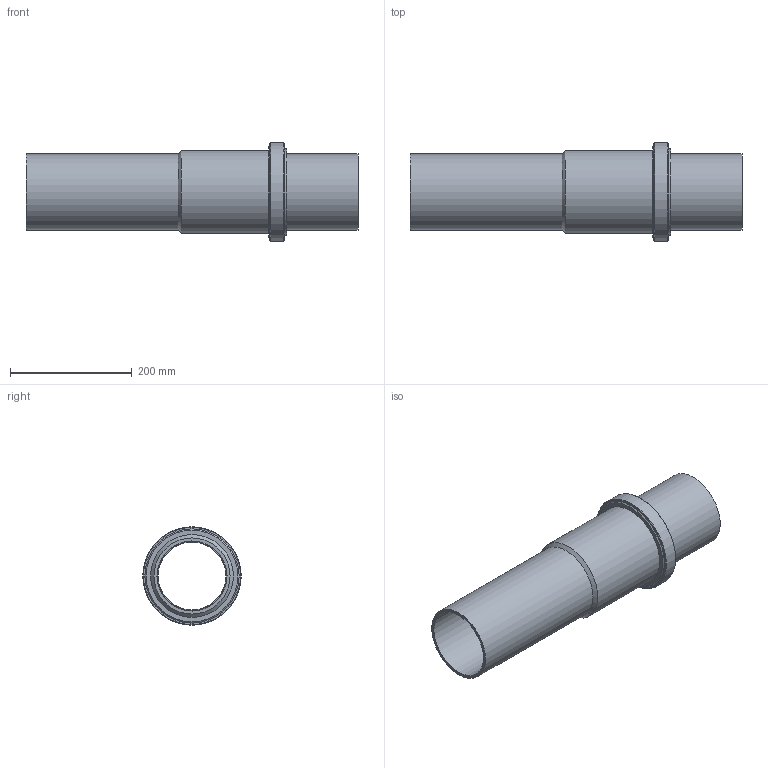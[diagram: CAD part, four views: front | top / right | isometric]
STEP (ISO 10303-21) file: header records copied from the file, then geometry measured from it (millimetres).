
FILE_DESCRIPTION(/* description */ (''),/* implementation_level */ '2;1');
FILE_NAME(/* name */ 'Z:\Geberit\Export\NewStep\368701.stp',/* time_stamp */ '2014-04-02T08:01:23+02:00',/* author */ ('nelson'),/* organization */ (''),/* preprocessor_version */ 'ST-DEVELOPER v15.2',/* originating_system */ 'Autodesk Inventor 2014',/* authorisation */ '');
FILE_SCHEMA (('AUTOMOTIVE_DESIGN { 1 0 10303 214 3 1 1 }'));
Length unit declared in the file: millimetre
Products named in the file (1): 368701
Bounding box: 545.85 x 162 x 162 mm (x, y, z)
Volume: 1346296 mm3; surface area: 707151.8 mm2
Topology: 2 solids, 3 shells, 41 faces, 75 edges, 45 vertices
Faces by surface type: cylinder 18, plane 11, cone 8, torus 4
Full cylindrical faces by diameter (mm): 111.5 x2, 113.5 x2, 115.2 x1, 116.4 x1, 118 x2, 125 x2, 126.5 x2, 131.5 x1, 136.1 x1, 141.5 x1, 144.5 x1, 155 x1, 162 x1
Entity records: 854 total; most frequent: DIRECTION 166, CARTESIAN_POINT 124, AXIS2_PLACEMENT_3D 83, EDGE_LOOP 82, ORIENTED_EDGE 82, FACE_BOUND 46, CIRCLE 41, VERTEX_POINT 41
